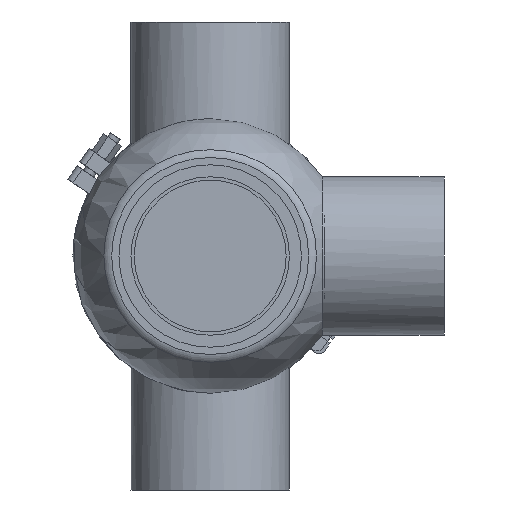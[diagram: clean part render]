
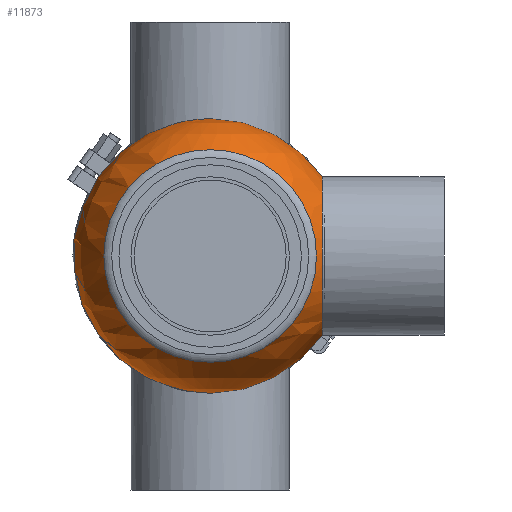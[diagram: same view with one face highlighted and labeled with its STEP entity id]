
A CAD part, front view. The second image highlights one B-rep face of the part: STEP entity #11873.
In plain terms, the highlighted spherical face has radius 88 mm.
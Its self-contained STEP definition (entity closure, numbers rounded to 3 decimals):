
#231 = CIRCLE ( 'NONE', #16926, 68.175 ) ;
#286 = DIRECTION ( 'NONE',  ( 0., 0., 1. ) ) ;
#979 = EDGE_CURVE ( 'NONE', #8955, #3931, #14751, .T. ) ;
#2279 = CARTESIAN_POINT ( 'NONE',  ( 71.857, 50.239, -7.53 ) ) ;
#2547 = DIRECTION ( 'NONE',  ( -1., 0., 0. ) ) ;
#2912 = CARTESIAN_POINT ( 'NONE',  ( 71.857, 50.239, 7.53 ) ) ;
#3668 = EDGE_LOOP ( 'NONE', ( #14460, #5388 ) ) ;
#3931 = VERTEX_POINT ( 'NONE', #2279 ) ;
#5026 = AXIS2_PLACEMENT_3D ( 'NONE', #9588, #21246, #16233 ) ;
#5343 = DIRECTION ( 'NONE',  ( 0., 0., 1. ) ) ;
#5388 = ORIENTED_EDGE ( 'NONE', *, *, #10768, .F. ) ;
#6717 = DIRECTION ( 'NONE',  ( 0., 1., 0. ) ) ;
#6973 = CARTESIAN_POINT ( 'NONE',  ( 0., 0., 0. ) ) ;
#7100 = SPHERICAL_SURFACE ( 'NONE', #7384, 88. ) ;
#7384 = AXIS2_PLACEMENT_3D ( 'NONE', #6973, #5343, #2547 ) ;
#7881 = EDGE_CURVE ( 'NONE', #12435, #12435, #231, .T. ) ;
#8955 = VERTEX_POINT ( 'NONE', #2912 ) ;
#9588 = CARTESIAN_POINT ( 'NONE',  ( 71.857, 0., 0. ) ) ;
#9869 = EDGE_LOOP ( 'NONE', ( #10052 ) ) ;
#10052 = ORIENTED_EDGE ( 'NONE', *, *, #7881, .T. ) ;
#10768 = EDGE_CURVE ( 'NONE', #3931, #8955, #14248, .T. ) ;
#10818 = FACE_OUTER_BOUND ( 'NONE', #9869, .T. ) ;
#11873 = ADVANCED_FACE ( 'NONE', ( #12445, #10818 ), #7100, .T. ) ;
#12435 = VERTEX_POINT ( 'NONE', #16748 ) ;
#12445 = FACE_OUTER_BOUND ( 'NONE', #3668, .T. ) ;
#14081 = DIRECTION ( 'NONE',  ( 0., 1., 0. ) ) ;
#14248 = CIRCLE ( 'NONE', #17053, 72.25 ) ;
#14460 = ORIENTED_EDGE ( 'NONE', *, *, #979, .F. ) ;
#14751 = CIRCLE ( 'NONE', #5026, 50.8 ) ;
#15820 = CARTESIAN_POINT ( 'NONE',  ( 0., 50.239, 0. ) ) ;
#16233 = DIRECTION ( 'NONE',  ( 0., 0., 1. ) ) ;
#16748 = CARTESIAN_POINT ( 'NONE',  ( 0., -55.643, 68.175 ) ) ;
#16926 = AXIS2_PLACEMENT_3D ( 'NONE', #18250, #6717, #286 ) ;
#17053 = AXIS2_PLACEMENT_3D ( 'NONE', #15820, #14081, #20841 ) ;
#18250 = CARTESIAN_POINT ( 'NONE',  ( 0., -55.643, 0. ) ) ;
#20841 = DIRECTION ( 'NONE',  ( 0., 0., 1. ) ) ;
#21246 = DIRECTION ( 'NONE',  ( 1., 0., 0. ) ) ;
